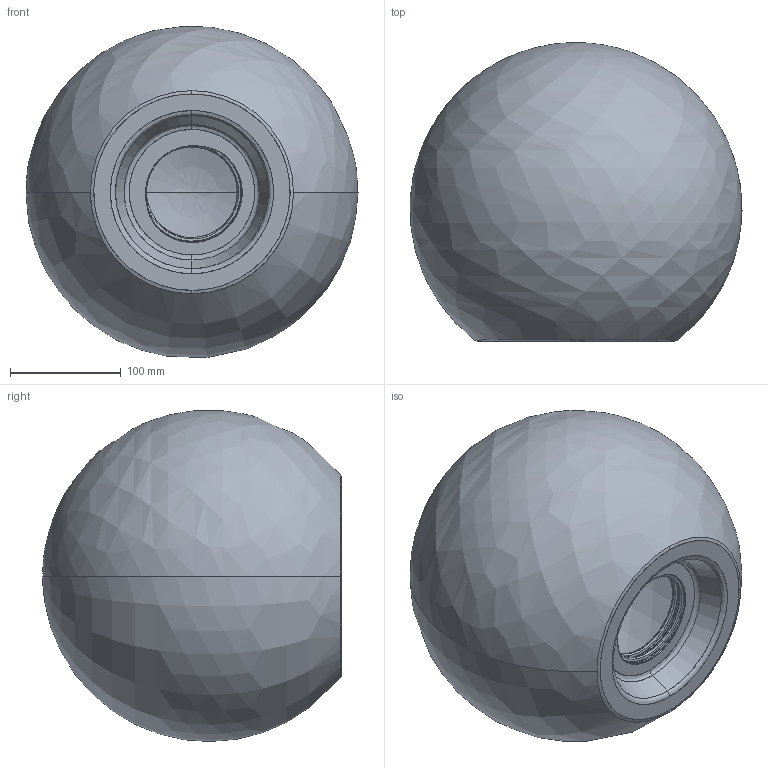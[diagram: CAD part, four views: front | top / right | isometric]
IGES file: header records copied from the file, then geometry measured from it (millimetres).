
Start section: SolidWorks IGES file using analytic representation for surfaces
Global section: file name: G:\kulki\300GWINT.IGS; native system: SolidWorks 2014; preprocessor: SolidWorks 2014; author: ｣ukasz Jaworski; date: 151110.150827; units: millimetre
Bounding box: 299.88 x 269.73 x 299.07 mm (x, y, z)
Surface area: 555149.7 mm2 (no closed solid volume)
Topology: 0 solids, 0 shells, 55 faces, 1507 edges, 1628 vertices
Faces by surface type: bspline 40, revolution 15
